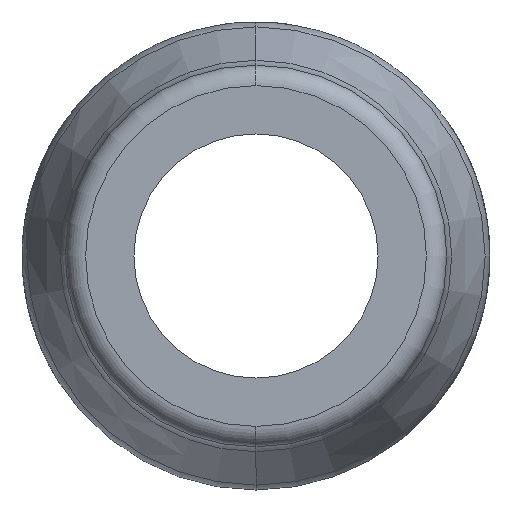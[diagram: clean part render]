
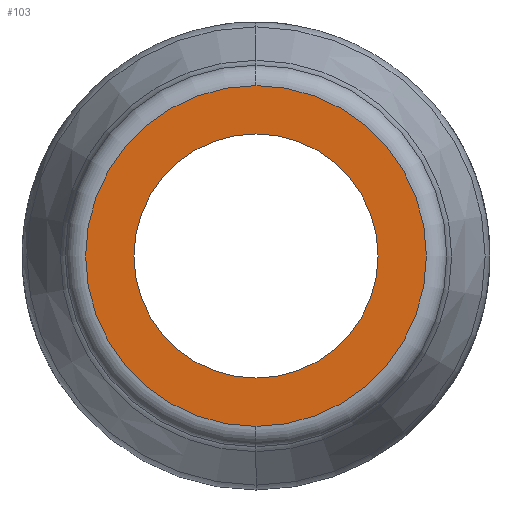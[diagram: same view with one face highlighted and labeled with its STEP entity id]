
A CAD part, left-side view. The second image highlights one B-rep face of the part: STEP entity #103.
In plain terms, the highlighted planar face has unit normal (-1, 0, 0).
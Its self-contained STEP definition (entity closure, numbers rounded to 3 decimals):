
#49 = DIRECTION ( 'NONE',  ( -1., 0., 0. ) ) ;
#103 = ADVANCED_FACE ( 'NONE', ( #1464, #1883 ), #156, .F. ) ;
#156 = PLANE ( 'NONE',  #1003 ) ;
#169 = ORIENTED_EDGE ( 'NONE', *, *, #1273, .F. ) ;
#207 = CARTESIAN_POINT ( 'NONE',  ( 0., 24., 0. ) ) ;
#236 = DIRECTION ( 'NONE',  ( 1., 0., 0. ) ) ;
#259 = DIRECTION ( 'NONE',  ( 0., 0., -1. ) ) ;
#273 = EDGE_LOOP ( 'NONE', ( #169, #1415 ) ) ;
#304 = CIRCLE ( 'NONE', #1388, 33.5 ) ;
#360 = EDGE_CURVE ( 'NONE', #1710, #1017, #846, .T. ) ;
#442 = VERTEX_POINT ( 'NONE', #1287 ) ;
#448 = EDGE_LOOP ( 'NONE', ( #487, #822 ) ) ;
#487 = ORIENTED_EDGE ( 'NONE', *, *, #1794, .T. ) ;
#583 = CARTESIAN_POINT ( 'NONE',  ( 0., 0., 0. ) ) ;
#592 = CARTESIAN_POINT ( 'NONE',  ( 0., 0., -33.5 ) ) ;
#708 = EDGE_CURVE ( 'NONE', #442, #1153, #304, .T. ) ;
#822 = ORIENTED_EDGE ( 'NONE', *, *, #708, .T. ) ;
#846 = CIRCLE ( 'NONE', #1708, 24. ) ;
#899 = DIRECTION ( 'NONE',  ( 0., 0., -1. ) ) ;
#934 = CARTESIAN_POINT ( 'NONE',  ( 0., 0., 0. ) ) ;
#1003 = AXIS2_PLACEMENT_3D ( 'NONE', #207, #236, #259 ) ;
#1017 = VERTEX_POINT ( 'NONE', #1814 ) ;
#1060 = DIRECTION ( 'NONE',  ( 0., 0., 1. ) ) ;
#1153 = VERTEX_POINT ( 'NONE', #592 ) ;
#1257 = DIRECTION ( 'NONE',  ( 0., 0., -1. ) ) ;
#1273 = EDGE_CURVE ( 'NONE', #1017, #1710, #1280, .T. ) ;
#1280 = CIRCLE ( 'NONE', #1694, 24. ) ;
#1287 = CARTESIAN_POINT ( 'NONE',  ( 0., 0., 33.5 ) ) ;
#1361 = DIRECTION ( 'NONE',  ( -1., 0., 0. ) ) ;
#1388 = AXIS2_PLACEMENT_3D ( 'NONE', #1407, #1361, #1257 ) ;
#1399 = AXIS2_PLACEMENT_3D ( 'NONE', #583, #1916, #899 ) ;
#1403 = CARTESIAN_POINT ( 'NONE',  ( 0., 0., 0. ) ) ;
#1407 = CARTESIAN_POINT ( 'NONE',  ( 0., 0., 0. ) ) ;
#1415 = ORIENTED_EDGE ( 'NONE', *, *, #360, .F. ) ;
#1422 = DIRECTION ( 'NONE',  ( -1., 0., 0. ) ) ;
#1430 = DIRECTION ( 'NONE',  ( 0., 0., 1. ) ) ;
#1464 = FACE_OUTER_BOUND ( 'NONE', #448, .T. ) ;
#1538 = CIRCLE ( 'NONE', #1399, 33.5 ) ;
#1623 = CARTESIAN_POINT ( 'NONE',  ( 0., 0., -24. ) ) ;
#1694 = AXIS2_PLACEMENT_3D ( 'NONE', #934, #49, #1060 ) ;
#1708 = AXIS2_PLACEMENT_3D ( 'NONE', #1403, #1422, #1430 ) ;
#1710 = VERTEX_POINT ( 'NONE', #1623 ) ;
#1794 = EDGE_CURVE ( 'NONE', #1153, #442, #1538, .T. ) ;
#1814 = CARTESIAN_POINT ( 'NONE',  ( 0., 0., 24. ) ) ;
#1883 = FACE_BOUND ( 'NONE', #273, .T. ) ;
#1916 = DIRECTION ( 'NONE',  ( -1., 0., 0. ) ) ;
